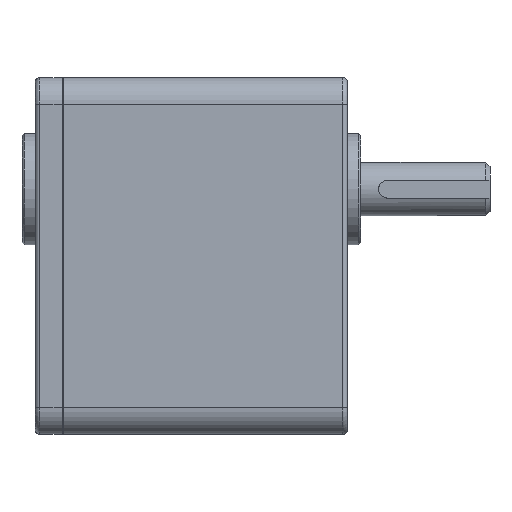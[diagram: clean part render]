
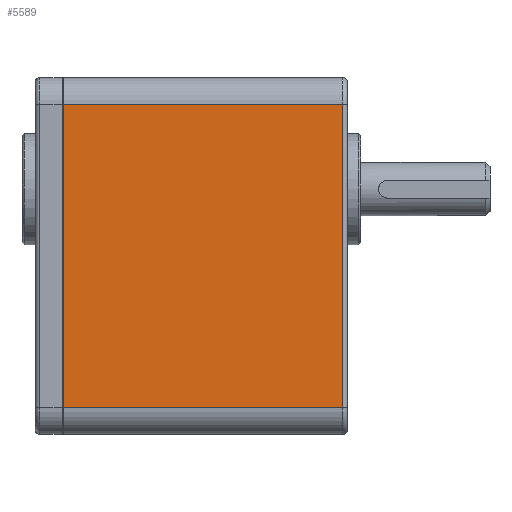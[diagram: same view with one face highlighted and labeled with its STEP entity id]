
A CAD part, front view. The second image highlights one B-rep face of the part: STEP entity #5589.
In plain terms, the highlighted planar face has unit normal (0, -1, 0).
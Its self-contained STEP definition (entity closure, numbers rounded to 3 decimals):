
#4917=CARTESIAN_POINT('',(-43.3,-36.0,-33.991));
#4918=VERTEX_POINT('',#4917);
#4926=CARTESIAN_POINT('',(-43.3,-36.0,34.009));
#4927=VERTEX_POINT('',#4926);
#4928=CARTESIAN_POINT('',(-43.3,-36.0,34.009));
#4929=DIRECTION('',(0.0,0.0,-1.0));
#4930=VECTOR('',#4929,68.);
#4931=LINE('',#4928,#4930);
#4932=EDGE_CURVE('',#4927,#4918,#4931,.T.);
#5546=CARTESIAN_POINT('',(19.5,-36.0,34.009));
#5547=VERTEX_POINT('',#5546);
#5557=CARTESIAN_POINT('',(-43.3,-36.0,34.009));
#5558=DIRECTION('',(1.0,0.0,0.0));
#5559=VECTOR('',#5558,62.8);
#5560=LINE('',#5557,#5559);
#5561=EDGE_CURVE('',#4927,#5547,#5560,.T.);
#5566=CARTESIAN_POINT('',(-14.5,-36.0,0.009));
#5567=DIRECTION('',(0.0,1.0,0.0));
#5568=DIRECTION('',(0.0,0.0,1.0));
#5569=AXIS2_PLACEMENT_3D('',#5566,#5567,#5568);
#5570=PLANE('',#5569);
#5571=CARTESIAN_POINT('',(19.5,-36.0,-33.991));
#5572=VERTEX_POINT('',#5571);
#5573=CARTESIAN_POINT('',(19.5,-36.0,34.009));
#5574=DIRECTION('',(0.0,0.0,-1.0));
#5575=VECTOR('',#5574,68.0);
#5576=LINE('',#5573,#5575);
#5577=EDGE_CURVE('',#5547,#5572,#5576,.T.);
#5578=ORIENTED_EDGE('',*,*,#5577,.F.);
#5579=ORIENTED_EDGE('',*,*,#5561,.F.);
#5580=ORIENTED_EDGE('',*,*,#4932,.T.);
#5581=CARTESIAN_POINT('',(19.5,-36.0,-33.991));
#5582=DIRECTION('',(-1.0,0.0,0.0));
#5583=VECTOR('',#5582,62.8);
#5584=LINE('',#5581,#5583);
#5585=EDGE_CURVE('',#5572,#4918,#5584,.T.);
#5586=ORIENTED_EDGE('',*,*,#5585,.F.);
#5587=EDGE_LOOP('',(#5578,#5579,#5580,#5586));
#5588=FACE_OUTER_BOUND('',#5587,.T.);
#5589=ADVANCED_FACE('',(#5588),#5570,.F.);
